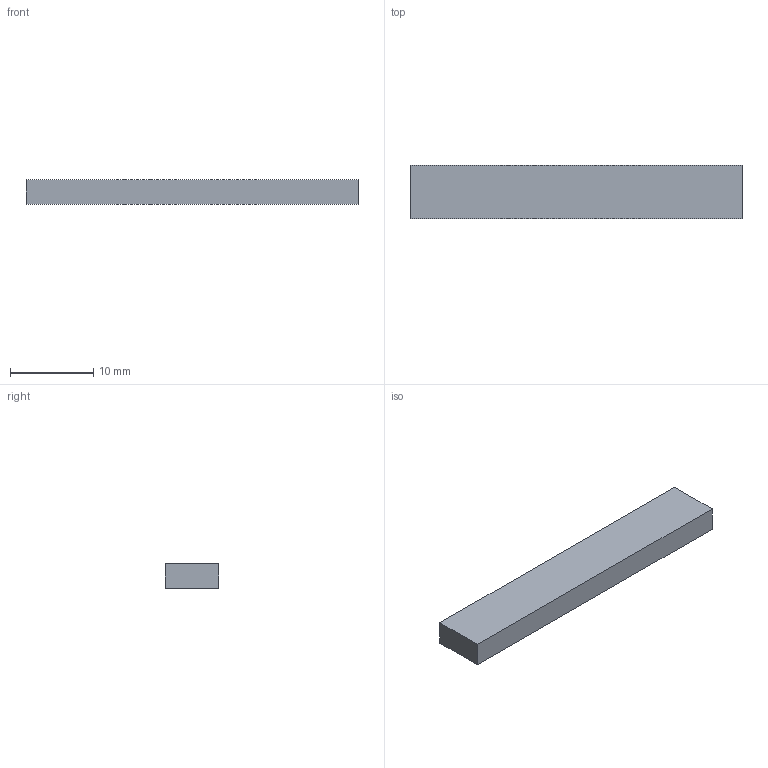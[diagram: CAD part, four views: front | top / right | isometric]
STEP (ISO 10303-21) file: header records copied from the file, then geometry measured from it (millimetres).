
FILE_DESCRIPTION (( 'STEP AP203' ), '1' );
FILE_NAME ('Vionaro V8 Innenblende H77-200 Schaumgummi 40 Lang.STEP', '2022-04-13T06:34:54', ( '' ), ( '' ), 'SwSTEP 2.0', 'SolidWorks 2021', '' );
FILE_SCHEMA (( 'CONFIG_CONTROL_DESIGN' ));
Length unit declared in the file: millimetre
Products named in the file (1): Vionaro V8 Innenblende H77-200 Schaumgummi 40 Lang
Bounding box: 40 x 6.4 x 3 mm (x, y, z)
Volume: 768 mm3; surface area: 790.4 mm2
Topology: 1 solids, 1 shells, 6 faces, 12 edges, 8 vertices
Faces by surface type: plane 6
Entity records: 233 total; most frequent: CARTESIAN_POINT 27, DIRECTION 26, ORIENTED_EDGE 24, LINE 12, EDGE_CURVE 12, VECTOR 12, PERSON_AND_ORGANIZATION 8, VERTEX_POINT 8
